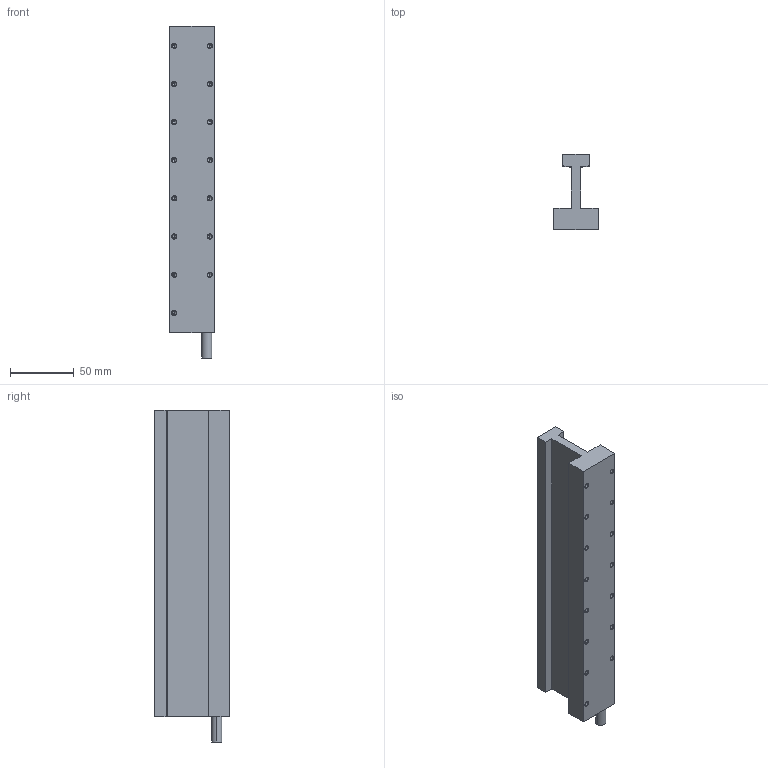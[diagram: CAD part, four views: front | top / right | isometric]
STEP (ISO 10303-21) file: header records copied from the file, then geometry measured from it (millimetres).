
FILE_DESCRIPTION (( 'STEP AP214' ), '1' );
FILE_NAME ('JKA34.STEP', '2025-09-05T12:43:56', ( '' ), ( '' ), 'SwSTEP 2.0', 'SolidWorks 2016', '' );
FILE_SCHEMA (( 'AUTOMOTIVE_DESIGN' ));
Length unit declared in the file: millimetre
Products named in the file (1): JKA34
Bounding box: 35 x 58.8 x 261 mm (x, y, z)
Volume: 242004.6 mm3; surface area: 55823.8 mm2
Topology: 1 solids, 1 shells, 107 faces, 252 edges, 133 vertices
Faces by surface type: cone 60, cylinder 32, plane 15
Entity records: 3174 total; most frequent: DIRECTION 532, CARTESIAN_POINT 463, ORIENTED_EDGE 444, EDGE_CURVE 222, AXIS2_PLACEMENT_3D 202, VERTEX_POINT 133, VECTOR 128, LINE 128
